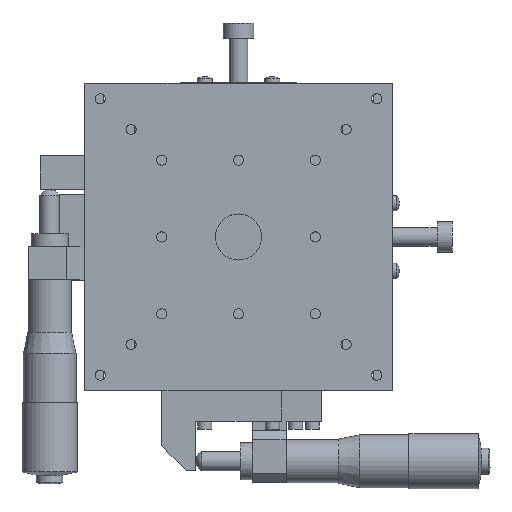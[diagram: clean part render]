
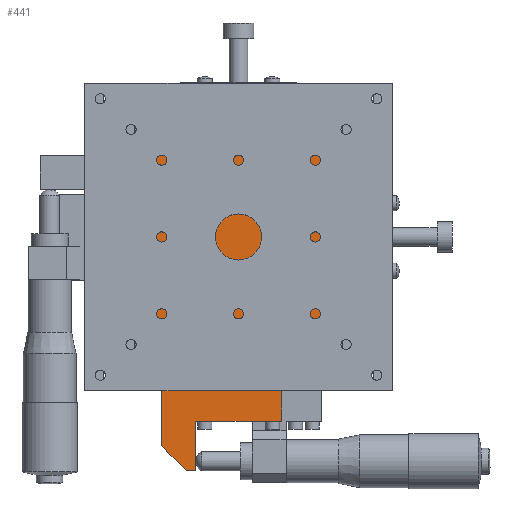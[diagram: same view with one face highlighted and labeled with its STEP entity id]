
A CAD part, top view. The second image highlights one B-rep face of the part: STEP entity #441.
In plain terms, the highlighted planar face has unit normal (0, 0, 1).
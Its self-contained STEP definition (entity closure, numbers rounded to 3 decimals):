
#441 = ADVANCED_FACE( '', ( #1070 ), #1071, .T. );
#1070 = FACE_OUTER_BOUND( '', #1984, .T. );
#1071 = PLANE( '', #1985 );
#1984 = EDGE_LOOP( '', ( #3177, #3178, #3179, #3180, #3181, #3182, #3183, #3184, #3185, #3186, #3187, #3188, #3189, #3190, #3191, #3192, #3193 ) );
#1985 = AXIS2_PLACEMENT_3D( '', #3194, #3195, #3196 );
#3177 = ORIENTED_EDGE( '', *, *, #5094, .F. );
#3178 = ORIENTED_EDGE( '', *, *, #5035, .T. );
#3179 = ORIENTED_EDGE( '', *, *, #5095, .T. );
#3180 = ORIENTED_EDGE( '', *, *, #5096, .T. );
#3181 = ORIENTED_EDGE( '', *, *, #5091, .T. );
#3182 = ORIENTED_EDGE( '', *, *, #5097, .T. );
#3183 = ORIENTED_EDGE( '', *, *, #5013, .T. );
#3184 = ORIENTED_EDGE( '', *, *, #5098, .T. );
#3185 = ORIENTED_EDGE( '', *, *, #5099, .T. );
#3186 = ORIENTED_EDGE( '', *, *, #5030, .T. );
#3187 = ORIENTED_EDGE( '', *, *, #5100, .T. );
#3188 = ORIENTED_EDGE( '', *, *, #5101, .T. );
#3189 = ORIENTED_EDGE( '', *, *, #4785, .T. );
#3190 = ORIENTED_EDGE( '', *, *, #5102, .F. );
#3191 = ORIENTED_EDGE( '', *, *, #5103, .T. );
#3192 = ORIENTED_EDGE( '', *, *, #5104, .T. );
#3193 = ORIENTED_EDGE( '', *, *, #5105, .T. );
#3194 = CARTESIAN_POINT( '', ( 0., 50.075, 16. ) );
#3195 = DIRECTION( '', ( 0., 0., 1. ) );
#3196 = DIRECTION( '', ( 1., 0., 0. ) );
#4785 = EDGE_CURVE( '', #5608, #5606, #5609, .T. );
#5013 = EDGE_CURVE( '', #6008, #6009, #6010, .T. );
#5030 = EDGE_CURVE( '', #6037, #6038, #6039, .T. );
#5035 = EDGE_CURVE( '', #6046, #6047, #6048, .T. );
#5091 = EDGE_CURVE( '', #6137, #6135, #6138, .T. );
#5094 = EDGE_CURVE( '', #6046, #6141, #6142, .T. );
#5095 = EDGE_CURVE( '', #6047, #6143, #6144, .T. );
#5096 = EDGE_CURVE( '', #6143, #6137, #6145, .T. );
#5097 = EDGE_CURVE( '', #6135, #6008, #6146, .T. );
#5098 = EDGE_CURVE( '', #6009, #6147, #6148, .T. );
#5099 = EDGE_CURVE( '', #6147, #6037, #6149, .T. );
#5100 = EDGE_CURVE( '', #6038, #6150, #6151, .T. );
#5101 = EDGE_CURVE( '', #6150, #5608, #6152, .T. );
#5102 = EDGE_CURVE( '', #6153, #5606, #6154, .T. );
#5103 = EDGE_CURVE( '', #6153, #6155, #6156, .T. );
#5104 = EDGE_CURVE( '', #6155, #6157, #6158, .T. );
#5105 = EDGE_CURVE( '', #6157, #6141, #6159, .T. );
#5606 = VERTEX_POINT( '', #6826 );
#5608 = VERTEX_POINT( '', #6828 );
#5609 = LINE( '', #6829, #6830 );
#6008 = VERTEX_POINT( '', #7359 );
#6009 = VERTEX_POINT( '', #7360 );
#6010 = LINE( '', #7361, #7362 );
#6037 = VERTEX_POINT( '', #7397 );
#6038 = VERTEX_POINT( '', #7398 );
#6039 = LINE( '', #7399, #7400 );
#6046 = VERTEX_POINT( '', #7410 );
#6047 = VERTEX_POINT( '', #7411 );
#6048 = LINE( '', #7412, #7413 );
#6135 = VERTEX_POINT( '', #7530 );
#6137 = VERTEX_POINT( '', #7533 );
#6138 = LINE( '', #7534, #7535 );
#6141 = VERTEX_POINT( '', #7539 );
#6142 = LINE( '', #7540, #7541 );
#6143 = VERTEX_POINT( '', #7542 );
#6144 = LINE( '', #7543, #7544 );
#6145 = LINE( '', #7545, #7546 );
#6146 = LINE( '', #7547, #7548 );
#6147 = VERTEX_POINT( '', #7549 );
#6148 = LINE( '', #7550, #7551 );
#6149 = LINE( '', #7552, #7553 );
#6150 = VERTEX_POINT( '', #7554 );
#6151 = LINE( '', #7555, #7556 );
#6152 = LINE( '', #7557, #7558 );
#6153 = VERTEX_POINT( '', #7559 );
#6154 = LINE( '', #7560, #7561 );
#6155 = VERTEX_POINT( '', #7562 );
#6156 = LINE( '', #7563, #7564 );
#6157 = VERTEX_POINT( '', #7565 );
#6158 = LINE( '', #7566, #7567 );
#6159 = LINE( '', #7568, #7569 );
#6826 = CARTESIAN_POINT( '', ( 17., 50., 16. ) );
#6828 = CARTESIAN_POINT( '', ( 33., 50., 16. ) );
#6829 = CARTESIAN_POINT( '', ( 0., 50., 16. ) );
#6830 = VECTOR( '', #8448, 1000. );
#7359 = CARTESIAN_POINT( '', ( -17., -76., 16. ) );
#7360 = CARTESIAN_POINT( '', ( -14., -76., 16. ) );
#7361 = CARTESIAN_POINT( '', ( 0., -76., 16. ) );
#7362 = VECTOR( '', #8735, 1000. );
#7397 = CARTESIAN_POINT( '', ( 14., -60., 16. ) );
#7398 = CARTESIAN_POINT( '', ( 14., -50., 16. ) );
#7399 = CARTESIAN_POINT( '', ( 14., 50.075, 16. ) );
#7400 = VECTOR( '', #8756, 1000. );
#7410 = CARTESIAN_POINT( '', ( -17., 50., 16. ) );
#7411 = CARTESIAN_POINT( '', ( -33., 50., 16. ) );
#7412 = CARTESIAN_POINT( '', ( 0., 50., 16. ) );
#7413 = VECTOR( '', #8760, 1000. );
#7530 = CARTESIAN_POINT( '', ( -25., -68., 16. ) );
#7533 = CARTESIAN_POINT( '', ( -25., -50., 16. ) );
#7534 = CARTESIAN_POINT( '', ( -25., 50.075, 16. ) );
#7535 = VECTOR( '', #8828, 1000. );
#7539 = CARTESIAN_POINT( '', ( -17., 50.15, 16. ) );
#7540 = CARTESIAN_POINT( '', ( -17., 50.075, 16. ) );
#7541 = VECTOR( '', #8830, 1000. );
#7542 = CARTESIAN_POINT( '', ( -33., -50., 16. ) );
#7543 = CARTESIAN_POINT( '', ( -33., 50.075, 16. ) );
#7544 = VECTOR( '', #8831, 1000. );
#7545 = CARTESIAN_POINT( '', ( 0., -50., 16. ) );
#7546 = VECTOR( '', #8832, 1000. );
#7547 = CARTESIAN_POINT( '', ( -71.538, -21.463, 16. ) );
#7548 = VECTOR( '', #8833, 1000. );
#7549 = CARTESIAN_POINT( '', ( -14., -60., 16. ) );
#7550 = CARTESIAN_POINT( '', ( -14., 50.075, 16. ) );
#7551 = VECTOR( '', #8834, 1000. );
#7552 = CARTESIAN_POINT( '', ( 0., -60., 16. ) );
#7553 = VECTOR( '', #8835, 1000. );
#7554 = CARTESIAN_POINT( '', ( 33., -50., 16. ) );
#7555 = CARTESIAN_POINT( '', ( 0., -50., 16. ) );
#7556 = VECTOR( '', #8836, 1000. );
#7557 = CARTESIAN_POINT( '', ( 33., 50.075, 16. ) );
#7558 = VECTOR( '', #8837, 1000. );
#7559 = CARTESIAN_POINT( '', ( 17., 50.15, 16. ) );
#7560 = CARTESIAN_POINT( '', ( 17., 50.075, 16. ) );
#7561 = VECTOR( '', #8838, 1000. );
#7562 = CARTESIAN_POINT( '', ( 11., 50.15, 16. ) );
#7563 = CARTESIAN_POINT( '', ( 0., 50.15, 16. ) );
#7564 = VECTOR( '', #8839, 1000. );
#7565 = CARTESIAN_POINT( '', ( -11., 50.15, 16. ) );
#7566 = CARTESIAN_POINT( '', ( 0., 50.15, 16. ) );
#7567 = VECTOR( '', #8840, 1000. );
#7568 = CARTESIAN_POINT( '', ( 0., 50.15, 16. ) );
#7569 = VECTOR( '', #8841, 1000. );
#8448 = DIRECTION( '', ( -1., 0., 0. ) );
#8735 = DIRECTION( '', ( 1., 0., 0. ) );
#8756 = DIRECTION( '', ( 0., 1., 0. ) );
#8760 = DIRECTION( '', ( -1., 0., 0. ) );
#8828 = DIRECTION( '', ( 0., -1., 0. ) );
#8830 = DIRECTION( '', ( 0., 1., 0. ) );
#8831 = DIRECTION( '', ( 0., -1., 0. ) );
#8832 = DIRECTION( '', ( 1., 0., 0. ) );
#8833 = DIRECTION( '', ( 0.707, -0.707, 0. ) );
#8834 = DIRECTION( '', ( 0., 1., 0. ) );
#8835 = DIRECTION( '', ( 1., 0., 0. ) );
#8836 = DIRECTION( '', ( 1., 0., 0. ) );
#8837 = DIRECTION( '', ( 0., 1., 0. ) );
#8838 = DIRECTION( '', ( 0., -1., 0. ) );
#8839 = DIRECTION( '', ( -1., 0., 0. ) );
#8840 = DIRECTION( '', ( -1., 0., 0. ) );
#8841 = DIRECTION( '', ( -1., 0., 0. ) );
